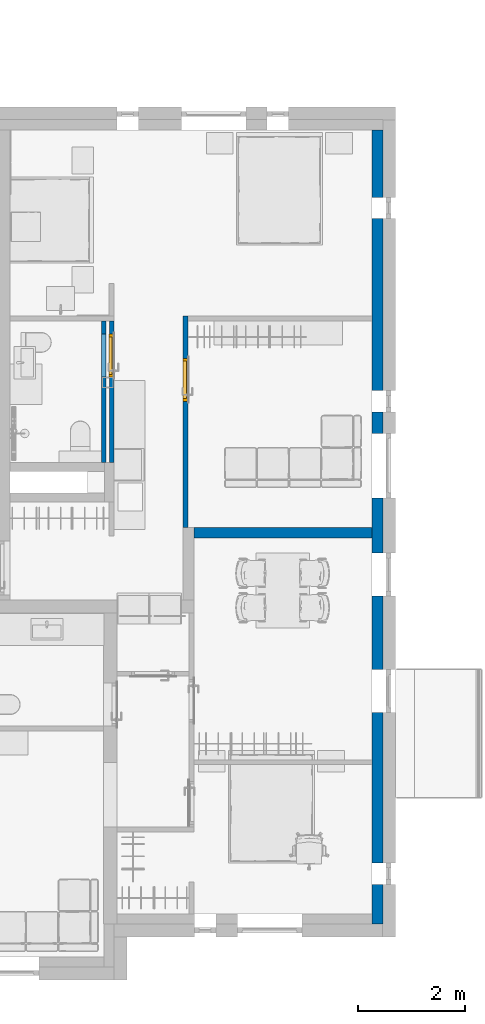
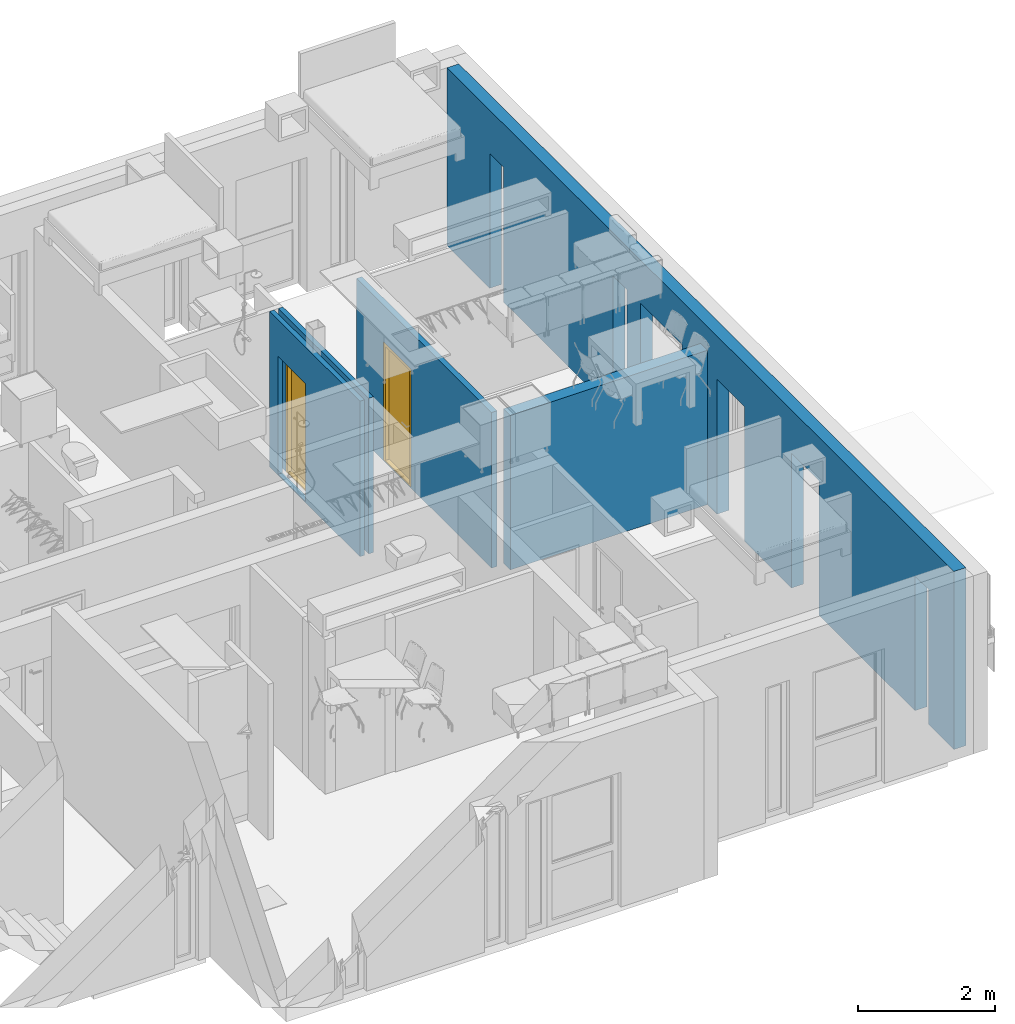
# One storey, part 8 of 68: 5 walls, 2 doors, 9 openings.
"""IFC2X3 building model written with IfcOpenShell, lengths in millimetres."""

from ifc_helpers import new_model, entity, si_unit, converted_unit, direction, frame, frame_2d, origin, place, context, subcontext, project, spatial, rectangle, extrude, faceted_brep, source, transform, mapped, material, layer, layer_set, layer_usage, type_object, type_shapes, element, fill, save


model = new_model("IFC2X3")

# Units and contexts
model_context = context("Model", 3, precision=0.01, world=origin(), true_north=direction((6.123233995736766e-17, 1.0)))
plan_context = context("Plan", 3, precision=0.01, world=origin(), true_north=direction((6.123233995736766e-17, 1.0)))
body_context = subcontext(model_context, "Body", "Model", "MODEL_VIEW")
ifc_project = project(units=[si_unit("LENGTHUNIT", "METRE", prefix="MILLI"), converted_unit("PLANEANGLEUNIT", "DEGREE", entity("IfcPlaneAngleMeasure", 0.017453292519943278), si_unit("PLANEANGLEUNIT", "RADIAN"), dimensions=[0, 0, 0, 0, 0, 0, 0]), si_unit("AREAUNIT", "SQUARE_METRE")], contexts=[model_context, plan_context])

# Site, building, storey
site_placement = place(None, origin())
site = spatial("IfcSite", under=ifc_project, at=site_placement, Name="Default", CompositionType="ELEMENT")
building_placement = place(site_placement, origin())
building = spatial("IfcBuilding", under=site, at=building_placement, CompositionType="ELEMENT")
storey_placement = place(building_placement, frame((0.0, 0.0, 6295.0)))
storey = spatial("IfcBuildingStorey", under=building, at=storey_placement, Name="3K", CompositionType="ELEMENT", Elevation=6294.999999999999)

# Wall, openings
ifc_material_1 = material(Name="_K. Väisviimistlus. Krohv. Valge")
ifc_layer_1 = layer(ifc_material_1, 5.0)
ifc_material_2 = material(Name="_K. Müüritis. Väikeplokk. Betoon-õõnesplokk")
ifc_layer_2 = layer(ifc_material_2, 190.00000000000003)
ifc_layer_3 = layer(ifc_material_1, 5.0)
ifc_layer_set_1 = layer_set([ifc_layer_1, ifc_layer_2, ifc_layer_3], Name="Basic Wall:SS-01. 190")
ifc_layer_usage_1 = layer_usage(ifc_layer_set_1, "AXIS2", "NEGATIVE", 100.00000000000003)
wall_type_1 = type_object("IfcWallType", Name="Basic Wall:SS-01. 190", PredefinedType="STANDARD", material=ifc_layer_set_1)
wall_1_placement = place(storey_placement, frame((17000.0, 15400.0, 0.0), z_axis=(0.0, 0.0, 1.0), x_axis=(0.0, -1.0, 0.0)))
wall_1 = element("IfcWallStandardCase", 1, at=wall_1_placement, inside=storey, type_object=wall_type_1, material=ifc_layer_usage_1, Name="Basic Wall:SS-01. 190", ObjectType="Basic Wall:SS-01. 190", context=body_context, shape_type="SweptSolid", body=[
    extrude(rectangle(XDim=14789.999999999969, YDim=200.00000000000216, at=frame_2d((7394.9999999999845, 1.4921397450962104e-13), x_axis=(-1.0, 0.0))), origin(), (0.0, 0.0, 1.0), 3169.999999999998),
])
opening_1_placement = place(wall_1_placement, frame((15400.0, -17000.0, 0.0)))
element("IfcOpeningElement", 2, at=opening_1_placement, cuts=wall_1, Name="Basic Wall:SS-01. 190", ObjectType="Opening", context=body_context, shape_type="Brep", body=[
    faceted_brep([(-8550.0, 17350.0, 2400.0), (-8550.0, 16656.0, 2400.0), (-8550.0, 16656.0, 0.0), (-8550.0, 17240.0, 0.0), (-8550.0, 17250.0, 0.0), (-8550.0, 17350.0, 0.0), (-9750.0, 17350.0, 2400.0), (-9750.0, 16656.0, 2400.0), (-9750.0, 17350.0, 0.0), (-9750.0, 17250.0, 0.0), (-9750.0, 17240.0, 0.0), (-9750.0, 16656.0, 0.0)], [[[0, 1, 2, 3, 4, 5]], [[6, 7, 1, 0]], [[8, 9, 10, 11, 7, 6]], [[5, 4, 3, 2, 11, 10, 9, 8]], [[6, 0, 5, 8]], [[7, 11, 2, 1]]]),
])
opening_2_placement = place(wall_1_placement, frame((15400.0, -17000.0, 0.0)))
element("IfcOpeningElement", 3, at=opening_2_placement, cuts=wall_1, Name="Basic Wall:SS-01. 190", ObjectType="Opening", context=body_context, shape_type="Brep", body=[
    faceted_brep([(-6720.0, 17350.0, 2400.0), (-6720.0, 16656.0, 2400.0), (-6720.0, 16656.0, 0.0), (-6720.0, 17240.0, 0.0), (-6720.0, 17250.0, 0.0), (-6720.0, 17350.0, 0.0), (-7520.0, 17350.0, 2400.0), (-7520.0, 16656.0, 2400.0), (-7520.0, 17350.0, 0.0), (-7520.0, 17250.0, 0.0), (-7520.0, 17240.0, 0.0), (-7520.0, 16656.0, 0.0)], [[[0, 1, 2, 3, 4, 5]], [[6, 7, 1, 0]], [[8, 9, 10, 11, 7, 6]], [[5, 4, 3, 2, 11, 10, 9, 8]], [[6, 0, 5, 8]], [[7, 11, 2, 1]]]),
])
opening_3_placement = place(wall_1_placement, frame((15400.0, -17000.0, 0.0)))
element("IfcOpeningElement", 4, at=opening_3_placement, cuts=wall_1, Name="Basic Wall:SS-01. 190", ObjectType="Opening", context=body_context, shape_type="Brep", body=[
    faceted_brep([(-4550.0, 17350.0, 2400.0), (-4550.0, 16656.0, 2400.0), (-4550.0, 16656.0, 0.0), (-4550.0, 17240.0, 0.0), (-4550.0, 17250.0, 0.0), (-4550.0, 17350.0, 0.0), (-5350.0, 17350.0, 2400.0), (-5350.0, 16656.0, 2400.0), (-5350.0, 17350.0, 0.0), (-5350.0, 17250.0, 0.0), (-5350.0, 17240.0, 0.0), (-5350.0, 16656.0, 0.0)], [[[0, 1, 2, 3, 4, 5]], [[6, 7, 1, 0]], [[8, 9, 10, 11, 7, 6]], [[5, 4, 3, 2, 11, 10, 9, 8]], [[6, 0, 5, 8]], [[7, 11, 2, 1]]]),
])
opening_4_placement = place(wall_1_placement, frame((15400.0, -17000.0, 0.0)))
element("IfcOpeningElement", 5, at=opening_4_placement, cuts=wall_1, Name="Basic Wall:SS-01. 190", ObjectType="Opening", context=body_context, shape_type="Brep", body=[
    faceted_brep([(-13750.0, 17350.0, 2400.0), (-13750.0, 16656.0, 2400.0), (-13750.0, 16656.0, 0.0), (-13750.0, 17240.0, 0.0), (-13750.0, 17250.0, 0.0), (-13750.0, 17350.0, 0.0), (-14150.0, 17350.0, 2400.0), (-14150.0, 16656.0, 2400.0), (-14150.0, 17350.0, 0.0), (-14150.0, 17250.0, 0.0), (-14150.0, 17240.0, 0.0), (-14150.0, 16656.0, 0.0)], [[[0, 1, 2, 3, 4, 5]], [[6, 7, 1, 0]], [[8, 9, 10, 11, 7, 6]], [[5, 4, 3, 2, 11, 10, 9, 8]], [[6, 0, 5, 8]], [[7, 11, 2, 1]]]),
])
opening_5_placement = place(wall_1_placement, frame((15400.0, -17000.0, 0.0)))
element("IfcOpeningElement", 6, at=opening_5_placement, cuts=wall_1, Name="Basic Wall:SS-01. 190", ObjectType="Opening", context=body_context, shape_type="Brep", body=[
    faceted_brep([(-10150.0, 17350.0, 2400.0), (-10150.0, 16656.0, 2400.0), (-10150.0, 16656.0, 0.0), (-10150.0, 17240.0, 0.0), (-10150.0, 17250.0, 0.0), (-10150.0, 17350.0, 0.0), (-10550.0, 17350.0, 2400.0), (-10550.0, 16656.0, 2400.0), (-10550.0, 17350.0, 0.0), (-10550.0, 17250.0, 0.0), (-10550.0, 17240.0, 0.0), (-10550.0, 16656.0, 0.0)], [[[0, 1, 2, 3, 4, 5]], [[6, 7, 1, 0]], [[8, 9, 10, 11, 7, 6]], [[5, 4, 3, 2, 11, 10, 9, 8]], [[6, 0, 5, 8]], [[7, 11, 2, 1]]]),
])
opening_6_placement = place(wall_1_placement, frame((15400.0, -17000.0, 0.0)))
element("IfcOpeningElement", 7, at=opening_6_placement, cuts=wall_1, Name="Basic Wall:SS-01. 190", ObjectType="Opening", context=body_context, shape_type="Brep", body=[
    faceted_brep([(-1350.0, 17350.0, 2400.0), (-1350.0, 16656.0, 2400.0), (-1350.0, 16656.0, 0.0), (-1350.0, 17240.0, 0.0), (-1350.0, 17250.0, 0.0), (-1350.0, 17350.0, 0.0), (-1750.0, 17350.0, 2400.0), (-1750.0, 16656.0, 2400.0), (-1750.0, 17350.0, 0.0), (-1750.0, 17250.0, 0.0), (-1750.0, 17240.0, 0.0), (-1750.0, 16656.0, 0.0)], [[[0, 1, 2, 3, 4, 5]], [[6, 7, 1, 0]], [[8, 9, 10, 11, 7, 6]], [[5, 4, 3, 2, 11, 10, 9, 8]], [[6, 0, 5, 8]], [[7, 11, 2, 1]]]),
])

# Wall
ifc_layer_usage_2 = layer_usage(ifc_layer_set_1, "AXIS2", "NEGATIVE", 100.00000000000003)
wall_2_placement = place(storey_placement, frame((13580.0, 7899.999959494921, 0.0)))
element("IfcWallStandardCase", 8, at=wall_2_placement, inside=storey, type_object=wall_type_1, material=ifc_layer_usage_2, Name="Basic Wall:SS-01. 190", ObjectType="Basic Wall:SS-01. 190", context=body_context, shape_type="SweptSolid", body=[
    extrude(rectangle(XDim=3319.9999999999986, YDim=200.0, at=frame_2d((1659.9999999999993, 1.2789769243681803e-13), x_axis=(-1.0, 0.0))), origin(), (0.0, 0.0, 1.0), 2750.000076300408),
])

# Wall, opening, door
ifc_material_3 = material(Name="_K. Ehitusplaat. Kipsplaat. Erikõva")
ifc_layer_4 = layer(ifc_material_3, 13.000000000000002)
ifc_material_4 = material(Name="_K. Soojustus. Mineraalvill")
ifc_layer_5 = layer(ifc_material_4, 66.0)
ifc_layer_6 = layer(ifc_material_3, 13.000000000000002)
ifc_layer_set_2 = layer_set([ifc_layer_4, ifc_layer_5, ifc_layer_6], Name="Basic Wall:SS-401")
ifc_layer_usage_3 = layer_usage(ifc_layer_set_2, "AXIS2", "NEGATIVE", 46.00000000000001)
wall_type_2 = type_object("IfcWallType", Name="Basic Wall:SS-401", PredefinedType="STANDARD", material=ifc_layer_set_2)
wall_3_placement = place(storey_placement, frame((13426.0, 7999.999959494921, -20.0), z_axis=(0.0, 0.0, 1.0), x_axis=(0.0, 1.0, 0.0)))
wall_3 = element("IfcWallStandardCase", 9, at=wall_3_placement, inside=storey, type_object=wall_type_2, material=ifc_layer_usage_3, Name="Basic Wall:SS-401", ObjectType="Basic Wall:SS-401", context=body_context, shape_type="SweptSolid", body=[
    extrude(rectangle(XDim=3940.000040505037, YDim=92.00000000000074, at=frame_2d((1970.0000202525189, 3.552713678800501e-14), x_axis=(-1.0, 0.0))), origin(), (0.0, 0.0, 1.0), 2769.999999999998),
])
opening_7_placement = place(wall_3_placement, frame((-7999.999959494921, 13426.0, 20.0), z_axis=(0.0, 0.0, 1.0), x_axis=(0.0, -1.0, 0.0)))
opening_7 = element("IfcOpeningElement", 10, at=opening_7_placement, cuts=wall_3, Name="Basic Wall:SS-401", ObjectType="Opening", context=body_context, shape_type="Brep", body=[
    faceted_brep([(12380.0, 10348.0, 2100.0), (12380.0, 11148.0, 2100.0), (12380.0, 11148.0, 0.0), (12380.0, 10348.0, 0.0), (14472.0, 10348.0, 0.0), (14472.0, 10348.0, 2100.0), (14472.0, 11148.0, 0.0), (14472.0, 11148.0, 2100.0)], [[[0, 1, 2, 3]], [[3, 4, 5, 0]], [[2, 6, 4, 3]], [[1, 7, 6, 2]], [[5, 7, 1, 0]], [[7, 5, 4, 6]]]),
])
ifc_material_5 = material(Name="_K. Puit. Peitsitud ja lakitud")
door_style_1 = type_object("IfcDoorStyle", Name="HR_Generic_Hinged_Single:Default. Manteluks lävepakuga. 800 x 2100 mm. Right", ConstructionType="NOTDEFINED", OperationType="NOTDEFINED", ParameterTakesPrecedence=False, Sizeable=False, material=ifc_material_5)
shared_shape_1 = source(origin(), body_context, "Body", "Brep", [
    faceted_brep([(765.0, 1092.0, 20.0), (35.0, 1092.0, 20.0), (35.0, 1062.0, 20.0), (50.0, 1062.0, 20.0), (50.0, 1000.0, 20.0), (750.0, 1000.0, 20.0), (750.0, 1062.0, 20.0), (765.0, 1062.0, 20.0), (35.0, 1092.0, 0.0), (765.0, 1092.0, 0.0), (765.0, 1062.0, 0.0), (750.0, 1062.0, 0.0), (750.0, 1000.0, 0.0), (50.0, 1000.0, 0.0), (50.0, 1062.0, 0.0), (35.0, 1062.0, 0.0)], [[[0, 1, 2, 3, 4, 5, 6, 7]], [[8, 9, 10, 11, 12, 13, 14, 15]], [[1, 0, 9, 8]], [[5, 4, 13, 12]], [[2, 1, 8, 15]], [[0, 7, 10, 9]], [[3, 14, 13, 4]], [[14, 3, 2, 15]], [[6, 11, 10, 7]], [[11, 6, 5, 12]]]),
    faceted_brep([(37.0, 1062.0, 2060.0), (37.0, 1062.0, 25.0), (763.0, 1062.0, 25.0), (763.0, 1062.0, 2060.0), (27.0, 1102.0, 25.0), (27.0, 1102.0, 2070.0), (773.0, 1102.0, 2070.0), (773.0, 1102.0, 25.0), (37.0, 1092.0, 2060.0), (37.0, 1092.0, 25.0), (27.0, 1092.0, 25.0), (773.0, 1092.0, 25.0), (763.0, 1092.0, 25.0), (763.0, 1092.0, 2060.0), (27.0, 1092.0, 2070.0), (773.0, 1092.0, 2070.0)], [[[0, 1, 2, 3]], [[4, 5, 6, 7]], [[1, 0, 8, 9]], [[2, 1, 9, 10, 4, 7, 11, 12]], [[3, 2, 12, 13]], [[0, 3, 13, 8]], [[14, 10, 9, 8, 13, 12, 11, 15]], [[6, 5, 14, 15]], [[7, 6, 15, 11]], [[5, 4, 10, 14]]]),
    faceted_brep([(800.0, 1000.0, 0.0), (750.0, 1000.0, 0.0), (750.0, 1062.0, 0.0), (765.0, 1062.0, 0.0), (765.0, 1092.0, 0.0), (800.0, 1092.0, 0.0), (800.0, 1000.0, 2100.0), (0.0, 1000.0, 2100.0), (0.0, 1000.0, 0.0), (50.0, 1000.0, 0.0), (50.0, 1000.0, 2050.0), (750.0, 1000.0, 2050.0), (750.0, 1062.0, 2050.0), (35.0, 1062.0, 2065.0), (765.0, 1062.0, 2065.0), (50.0, 1062.0, 2050.0), (50.0, 1062.0, 0.0), (35.0, 1062.0, 0.0), (765.0, 1092.0, 2065.0), (0.0, 1092.0, 0.0), (0.0, 1092.0, 2100.0), (800.0, 1092.0, 2100.0), (35.0, 1092.0, 2065.0), (35.0, 1092.0, 0.0)], [[[0, 1, 2, 3, 4, 5]], [[1, 0, 6, 7, 8, 9, 10, 11]], [[1, 11, 12, 2]], [[13, 14, 3, 2, 12, 15, 16, 17]], [[3, 14, 18, 4]], [[19, 20, 21, 5, 4, 18, 22, 23]], [[0, 5, 21, 6]], [[8, 19, 23, 17, 16, 9]], [[19, 8, 7, 20]], [[13, 17, 23, 22]], [[10, 9, 16, 15]], [[7, 6, 21, 20]], [[11, 10, 15, 12]], [[14, 13, 22, 18]]]),
])
type_shapes(door_style_1, [shared_shape_1])
door_1_placement = place(opening_7_placement, frame((12380.0, 11148.0, 0.0), z_axis=(0.0, 0.0, 1.0), x_axis=(0.0, -1.0, 0.0)))
door_1 = element("IfcDoor", 11, at=door_1_placement, inside=storey, type_object=door_style_1, material=ifc_material_5, Name="HR_Generic_Hinged_Single:Default. Manteluks lävepakuga. 800 x 2100 mm. Right", ObjectType="HR_Generic_Hinged_Single:Default. Manteluks lävepakuga. 800 x 2100 mm. Right", OverallHeight=2130.000000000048, OverallWidth=860.0000000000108, context=body_context, shape_type="MappedRepresentation", body=[
    mapped(shared_shape_1, transform((0.0, 0.0, 0.0), scale=1.0)),
])
fill(opening_7, door_1)

ifc_layer_7 = layer(ifc_material_3, 13.000000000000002)
ifc_layer_8 = layer(ifc_material_4, 66.0)
ifc_layer_set_3 = layer_set([ifc_layer_7, ifc_layer_8], Name="Basic Wall:SS-402")
ifc_layer_usage_4 = layer_usage(ifc_layer_set_3, "AXIS2", "NEGATIVE", 39.50000000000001)
wall_type_3 = type_object("IfcWallType", Name="Basic Wall:SS-402", PredefinedType="STANDARD", material=ifc_layer_set_3)
wall_4_placement = place(storey_placement, frame((12048.499999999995, 11848.0, -20.0), z_axis=(0.0, 0.0, 1.0), x_axis=(0.0, -1.0, 0.0)))
wall_4 = element("IfcWallStandardCase", 12, at=wall_4_placement, inside=storey, type_object=wall_type_3, material=ifc_layer_usage_4, Name="Basic Wall:SS-402", ObjectType="Basic Wall:SS-402", context=body_context, shape_type="SweptSolid", body=[
    extrude(rectangle(XDim=2637.9999999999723, YDim=78.99999999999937, at=frame_2d((1318.9999999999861, 5.258016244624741e-13), x_axis=(-1.0, 0.0))), origin(), (0.0, 0.0, 1.0), 2769.999999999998),
])
opening_8_placement = place(wall_4_placement, frame((11848.0, -12048.499999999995, 20.0), z_axis=(0.0, 0.0, 1.0), x_axis=(0.0, 1.0, 0.0)))
opening_8 = element("IfcOpeningElement", 13, at=opening_8_placement, cuts=wall_4, Name="Basic Wall:SS-402", ObjectType="Opening", context=body_context, shape_type="Brep", body=[
    faceted_brep([(10996.0, 10800.0, 2100.0), (10996.0, 11600.0, 2100.0), (10996.0, 11600.0, 0.0), (10996.0, 10800.0, 0.0), (13088.0, 10800.0, 0.0), (13088.0, 10800.0, 2100.0), (13088.0, 11600.0, 0.0), (13088.0, 11600.0, 2100.0)], [[[0, 1, 2, 3]], [[3, 4, 5, 0]], [[2, 6, 4, 3]], [[1, 7, 6, 2]], [[5, 7, 1, 0]], [[7, 5, 4, 6]]]),
])
door_style_2 = type_object("IfcDoorStyle", Name="HR_Generic_Hinged_Single:Default. Manteluks lävepakuga. 800 x 2100 mm. Right", ConstructionType="NOTDEFINED", OperationType="NOTDEFINED", ParameterTakesPrecedence=False, Sizeable=False, material=ifc_material_5)
shared_shape_2 = source(origin(), body_context, "Body", "Brep", [
    faceted_brep([(765.0, -1000.0, 20.0), (35.0, -1000.0, 20.0), (35.0, -1030.0, 20.0), (50.0, -1030.0, 20.0), (50.0, -1092.0, 20.0), (750.0, -1092.0, 20.0), (750.0, -1030.0, 20.0), (765.0, -1030.0, 20.0), (35.0, -1000.0, 0.0), (765.0, -1000.0, 0.0), (765.0, -1030.0, 0.0), (750.0, -1030.0, 0.0), (750.0, -1092.0, 0.0), (50.0, -1092.0, 0.0), (50.0, -1030.0, 0.0), (35.0, -1030.0, 0.0)], [[[0, 1, 2, 3, 4, 5, 6, 7]], [[8, 9, 10, 11, 12, 13, 14, 15]], [[1, 0, 9, 8]], [[5, 4, 13, 12]], [[2, 1, 8, 15]], [[0, 7, 10, 9]], [[3, 14, 13, 4]], [[14, 3, 2, 15]], [[6, 11, 10, 7]], [[11, 6, 5, 12]]]),
    faceted_brep([(37.0, -1030.0, 2060.0), (37.0, -1030.0, 25.0), (763.0, -1030.0, 25.0), (763.0, -1030.0, 2060.0), (27.0, -990.0, 25.0), (27.0, -990.0, 2070.0), (773.0, -990.0, 2070.0), (773.0, -990.0, 25.0), (37.0, -1000.0, 2060.0), (37.0, -1000.0, 25.0), (27.0, -1000.0, 25.0), (773.0, -1000.0, 25.0), (763.0, -1000.0, 25.0), (763.0, -1000.0, 2060.0), (27.0, -1000.0, 2070.0), (773.0, -1000.0, 2070.0)], [[[0, 1, 2, 3]], [[4, 5, 6, 7]], [[1, 0, 8, 9]], [[2, 1, 9, 10, 4, 7, 11, 12]], [[3, 2, 12, 13]], [[0, 3, 13, 8]], [[14, 10, 9, 8, 13, 12, 11, 15]], [[6, 5, 14, 15]], [[7, 6, 15, 11]], [[5, 4, 10, 14]]]),
    faceted_brep([(800.0, -1092.0, 0.0), (750.0, -1092.0, 0.0), (750.0, -1030.0, 0.0), (765.0, -1030.0, 0.0), (765.0, -1000.0, 0.0), (800.0, -1000.0, 0.0), (800.0, -1092.0, 2100.0), (0.0, -1092.0, 2100.0), (0.0, -1092.0, 0.0), (50.0, -1092.0, 0.0), (50.0, -1092.0, 2050.0), (750.0, -1092.0, 2050.0), (750.0, -1030.0, 2050.0), (35.0, -1030.0, 2065.0), (765.0, -1030.0, 2065.0), (50.0, -1030.0, 2050.0), (50.0, -1030.0, 0.0), (35.0, -1030.0, 0.0), (765.0, -1000.0, 2065.0), (0.0, -1000.0, 0.0), (0.0, -1000.0, 2100.0), (800.0, -1000.0, 2100.0), (35.0, -1000.0, 2065.0), (35.0, -1000.0, 0.0)], [[[0, 1, 2, 3, 4, 5]], [[1, 0, 6, 7, 8, 9, 10, 11]], [[1, 11, 12, 2]], [[13, 14, 3, 2, 12, 15, 16, 17]], [[3, 14, 18, 4]], [[19, 20, 21, 5, 4, 18, 22, 23]], [[0, 5, 21, 6]], [[8, 19, 23, 17, 16, 9]], [[19, 8, 7, 20]], [[13, 17, 23, 22]], [[10, 9, 16, 15]], [[7, 6, 21, 20]], [[11, 10, 15, 12]], [[14, 13, 22, 18]]]),
])
type_shapes(door_style_2, [shared_shape_2])
door_2_placement = place(opening_8_placement, frame((13088.0, 11600.0, 0.0), z_axis=(0.0, 0.0, 1.0), x_axis=(0.0, -1.0, 0.0)))
door_2 = element("IfcDoor", 14, at=door_2_placement, inside=storey, type_object=door_style_2, material=ifc_material_5, Name="HR_Generic_Hinged_Single:Default. Manteluks lävepakuga. 800 x 2100 mm. Right", ObjectType="HR_Generic_Hinged_Single:Default. Manteluks lävepakuga. 800 x 2100 mm. Right", OverallHeight=2130.000000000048, OverallWidth=860.0000000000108, context=body_context, shape_type="MappedRepresentation", body=[
    mapped(shared_shape_2, transform((0.0, 0.0, 0.0), scale=1.0)),
])
fill(opening_8, door_2)

# Wall, opening
ifc_layer_usage_5 = layer_usage(ifc_layer_set_3, "AXIS2", "POSITIVE", -39.50000000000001)
wall_5_placement = place(storey_placement, frame((11901.499999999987, 11848.0, -20.0), z_axis=(0.0, 0.0, 1.0), x_axis=(0.0, -1.0, 0.0)))
wall_5 = element("IfcWallStandardCase", 15, at=wall_5_placement, inside=storey, type_object=wall_type_3, material=ifc_layer_usage_5, Name="Basic Wall:SS-402", ObjectType="Basic Wall:SS-402", context=body_context, shape_type="SweptSolid", body=[
    extrude(rectangle(XDim=2637.9999999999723, YDim=78.99999999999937, at=frame_2d((1318.9999999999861, 3.801403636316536e-13), x_axis=(-1.0, 0.0))), origin(), (0.0, 0.0, 1.0), 2769.999999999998),
])
opening_9_placement = place(wall_5_placement, frame((11848.0, -11901.500000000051, 20.0)))
element("IfcOpeningElement", 16, at=opening_9_placement, cuts=wall_5, Name="Basic Wall:SS-402", ObjectType="Opening", context=body_context, shape_type="Brep", body=[
    faceted_brep([(-10800.0, 10996.0, 2100.0), (-11600.0, 10996.0, 2100.0), (-11600.0, 10996.0, 0.0), (-10800.0, 10996.0, 0.0), (-10800.0, 13088.0, 0.0), (-10800.0, 13088.0, 2100.0), (-11600.0, 13088.0, 0.0), (-11600.0, 13088.0, 2100.0)], [[[0, 1, 2, 3]], [[3, 4, 5, 0]], [[2, 6, 4, 3]], [[1, 7, 6, 2]], [[5, 7, 1, 0]], [[7, 5, 4, 6]]]),
])

save(model, "model.ifc")
